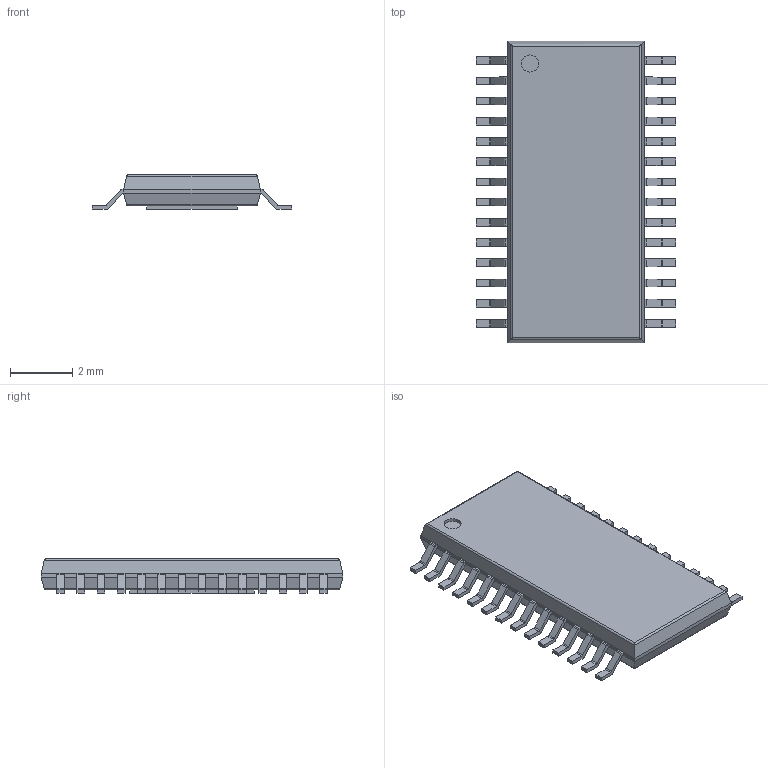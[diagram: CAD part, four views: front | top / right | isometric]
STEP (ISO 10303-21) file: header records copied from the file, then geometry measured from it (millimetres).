
FILE_DESCRIPTION(('FreeCAD Model'),'2;1');
FILE_NAME('/var/www/3D/0T/1016670.1.1.stp','2021-01-27T11:55:15',( 'Author'),(''),'Open CASCADE STEP processor 6.9','FreeCAD','Unknown' );
FILE_SCHEMA(('AUTOMOTIVE_DESIGN { 1 0 10303 214 1 1 1 1 }'));
Length unit declared in the file: millimetre
Products named in the file (4): ASSEMBLY; Body; PinsArrayLR; ThermalPad
Assembly tree (3 placements, depth 2):
  ASSEMBLY
    Body
    PinsArrayLR
    ThermalPad
Bounding box: 6.4 x 9.7 x 1.1 mm (x, y, z)
Volume: 43.5 mm3; surface area: 158.7 mm2
Topology: 30 solids, 30 shells, 394 faces, 983 edges, 650 vertices
Faces by surface type: plane 301, cylinder 93
Full cylindrical faces by diameter (mm): 0.55 x1
Entity records: 24985 total; most frequent: CARTESIAN_POINT 4689, DIRECTION 3763, LINE 2525, VECTOR 2525, ORIENTED_EDGE 1966, PCURVE 1966, DEFINITIONAL_REPRESENTATION 1966, EDGE_CURVE 983
